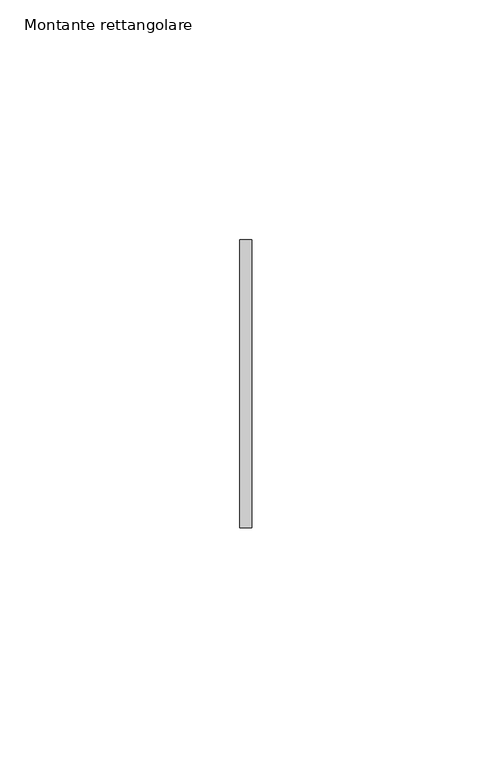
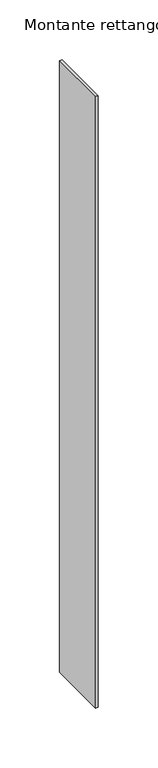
"""IFC4 building model written with IfcOpenShell, lengths in millimetres: member geometry, Montante rettangolare : Verde Profilo's Coverage."""

from ifc_helpers import new_model, si_unit, frame, origin, place, context, project, spatial, polyline, outline, extrude, source, transform, mapped, element, save


def montante_rettangolare_953541ee(model_context):
    return source(origin(), model_context, "Body", "SweptSolid", [
        extrude(outline(polyline([(-2.4801246, -60.0), (-2.4801246, 0.0), (0.0, 0.0), (0.0, -60.0), (-2.4801246, -60.0)])), frame((0.0, 0.0, -623.7595941), z_axis=(0.0, 0.0, 1.0), x_axis=(1.0, 0.0, 0.0)), (0.0, 0.0, 1.0), 623.7595941),
    ])


if __name__ == "__main__":
    model = new_model("IFC4")
    model_context = context("Model", 3, world=origin())
    ifc_project = project(units=[si_unit("LENGTHUNIT", "METRE", prefix="MILLI")], contexts=[model_context])
    site = spatial("IfcSite", under=ifc_project)
    building = spatial("IfcBuilding", under=site)
    placement = place(None, origin())
    montante_rettangolare_shape = montante_rettangolare_953541ee(model_context)
    element("IfcMember", 1, ObjectType="Montante rettangolare : Verde Profilo's Coverage", at=placement, inside=building, context=model_context, shape_type="MappedRepresentation", body=[
        mapped(montante_rettangolare_shape, transform((0.0, 0.0, 0.0), x_axis=(1.0, 0.0, 0.0), y_axis=(0.0, 1.0, 0.0), z_axis=(0.0, 0.0, 1.0))),
    ])
    save(model, "model.ifc")
